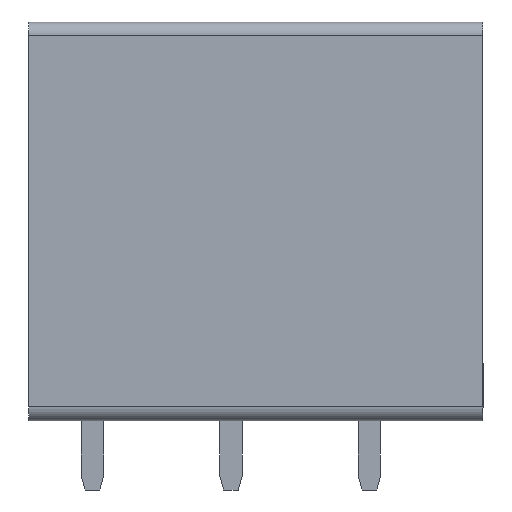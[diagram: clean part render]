
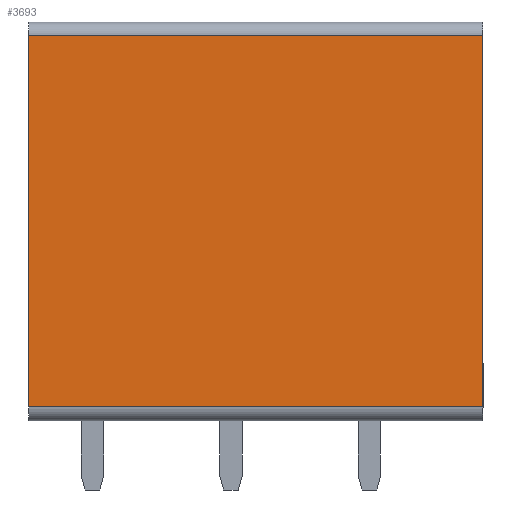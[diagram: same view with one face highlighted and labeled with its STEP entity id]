
A CAD part, front view. The second image highlights one B-rep face of the part: STEP entity #3693.
In plain terms, the highlighted planar face has unit normal (0, -1, 0).
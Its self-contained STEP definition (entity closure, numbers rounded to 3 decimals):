
#165 = VECTOR ( 'NONE', #6071, 1000. ) ;
#703 = ORIENTED_EDGE ( 'NONE', *, *, #3748, .F. ) ;
#1156 = CARTESIAN_POINT ( 'NONE',  ( -12.5, -6.75, -6.7 ) ) ;
#2104 = CARTESIAN_POINT ( 'NONE',  ( -12.5, -6.75, 6.7 ) ) ;
#2416 = PLANE ( 'NONE',  #6201 ) ;
#3471 = LINE ( 'NONE', #13047, #165 ) ;
#3693 = ADVANCED_FACE ( 'NONE', ( #14705 ), #2416, .F. ) ;
#3748 = EDGE_CURVE ( 'NONE', #4962, #6689, #11055, .T. ) ;
#4488 = EDGE_CURVE ( 'NONE', #14159, #6689, #10156, .T. ) ;
#4894 = ORIENTED_EDGE ( 'NONE', *, *, #4488, .T. ) ;
#4935 = DIRECTION ( 'NONE',  ( -1., 0., 0. ) ) ;
#4962 = VERTEX_POINT ( 'NONE', #8327 ) ;
#5113 = VECTOR ( 'NONE', #4935, 1000. ) ;
#6071 = DIRECTION ( 'NONE',  ( 0., 0., -1. ) ) ;
#6201 = AXIS2_PLACEMENT_3D ( 'NONE', #16671, #14051, #13691 ) ;
#6689 = VERTEX_POINT ( 'NONE', #1156 ) ;
#7501 = VERTEX_POINT ( 'NONE', #10011 ) ;
#8327 = CARTESIAN_POINT ( 'NONE',  ( 3.9, -6.75, -6.7 ) ) ;
#8451 = ORIENTED_EDGE ( 'NONE', *, *, #17499, .F. ) ;
#9090 = VECTOR ( 'NONE', #15641, 1000. ) ;
#10011 = CARTESIAN_POINT ( 'NONE',  ( 3.9, -6.75, 6.7 ) ) ;
#10156 = LINE ( 'NONE', #11400, #9090 ) ;
#10260 = ORIENTED_EDGE ( 'NONE', *, *, #11255, .T. ) ;
#10837 = EDGE_LOOP ( 'NONE', ( #10260, #4894, #703, #8451 ) ) ;
#11055 = LINE ( 'NONE', #16488, #16516 ) ;
#11255 = EDGE_CURVE ( 'NONE', #7501, #14159, #11718, .T. ) ;
#11400 = CARTESIAN_POINT ( 'NONE',  ( -12.5, -6.75, 6.7 ) ) ;
#11718 = LINE ( 'NONE', #17222, #5113 ) ;
#13047 = CARTESIAN_POINT ( 'NONE',  ( 3.9, -6.75, 6.7 ) ) ;
#13691 = DIRECTION ( 'NONE',  ( 0., 0., 1. ) ) ;
#14051 = DIRECTION ( 'NONE',  ( 0., 1., 0. ) ) ;
#14159 = VERTEX_POINT ( 'NONE', #2104 ) ;
#14705 = FACE_OUTER_BOUND ( 'NONE', #10837, .T. ) ;
#15641 = DIRECTION ( 'NONE',  ( 0., 0., -1. ) ) ;
#16488 = CARTESIAN_POINT ( 'NONE',  ( 2.5, -6.75, -6.7 ) ) ;
#16516 = VECTOR ( 'NONE', #16575, 1000. ) ;
#16575 = DIRECTION ( 'NONE',  ( -1., 0., 0. ) ) ;
#16671 = CARTESIAN_POINT ( 'NONE',  ( 2.5, -6.75, 6.7 ) ) ;
#17222 = CARTESIAN_POINT ( 'NONE',  ( 2.5, -6.75, 6.7 ) ) ;
#17499 = EDGE_CURVE ( 'NONE', #7501, #4962, #3471, .T. ) ;
